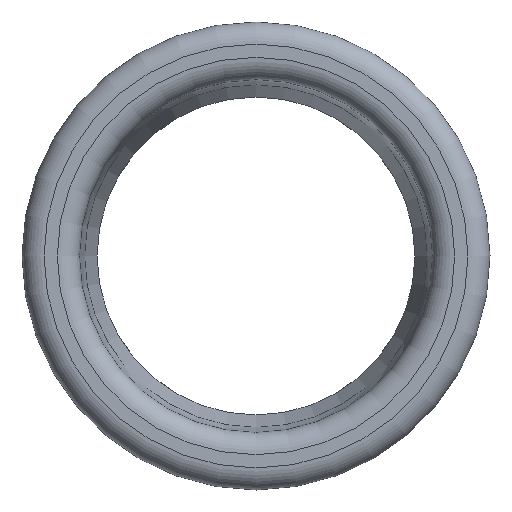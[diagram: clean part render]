
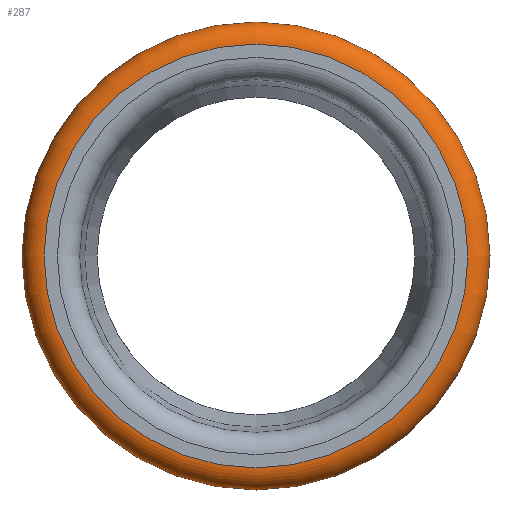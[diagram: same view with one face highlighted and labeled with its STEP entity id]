
A CAD part, left-side view. The second image highlights one B-rep face of the part: STEP entity #287.
In plain terms, the highlighted toroidal (fillet/blend) face has major radius 24 mm and minor radius 2.5 mm.
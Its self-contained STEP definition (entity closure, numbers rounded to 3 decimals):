
#16=TOROIDAL_SURFACE($,#334,24.,2.5);
#52=FACE_BOUND($,#112,.T.);
#70=FACE_OUTER_BOUND($,#111,.T.);
#111=EDGE_LOOP($,(#234));
#112=EDGE_LOOP($,(#235));
#137=CIRCLE($,#333,24.);
#138=CIRCLE($,#335,26.5);
#161=VERTEX_POINT($,#523);
#162=VERTEX_POINT($,#526);
#186=EDGE_CURVE($,#161,#161,#137,.T.);
#187=EDGE_CURVE($,#162,#162,#138,.T.);
#234=ORIENTED_EDGE($,*,*,#186,.T.);
#235=ORIENTED_EDGE($,*,*,#187,.F.);
#287=ADVANCED_FACE($,(#70,#52),#16,.T.);
#333=AXIS2_PLACEMENT_3D($,#524,#421,#422);
#334=AXIS2_PLACEMENT_3D($,#525,#423,#424);
#335=AXIS2_PLACEMENT_3D($,#527,#425,#426);
#421=DIRECTION('center_axis',(1.,0.,0.));
#422=DIRECTION('ref_axis',(0.,0.,-1.));
#423=DIRECTION('center_axis',(1.,0.,0.));
#424=DIRECTION('ref_axis',(0.,0.,-1.));
#425=DIRECTION('center_axis',(1.,0.,0.));
#426=DIRECTION('ref_axis',(0.,0.,-1.));
#523=CARTESIAN_POINT('',(0.,24.,0.));
#524=CARTESIAN_POINT('Origin',(0.,0.,0.));
#525=CARTESIAN_POINT('Origin',(2.5,0.,0.));
#526=CARTESIAN_POINT('',(2.5,26.5,0.));
#527=CARTESIAN_POINT('Origin',(2.5,0.,0.));
